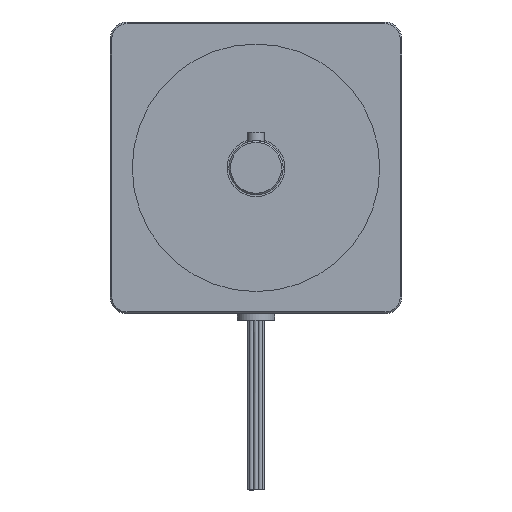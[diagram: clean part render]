
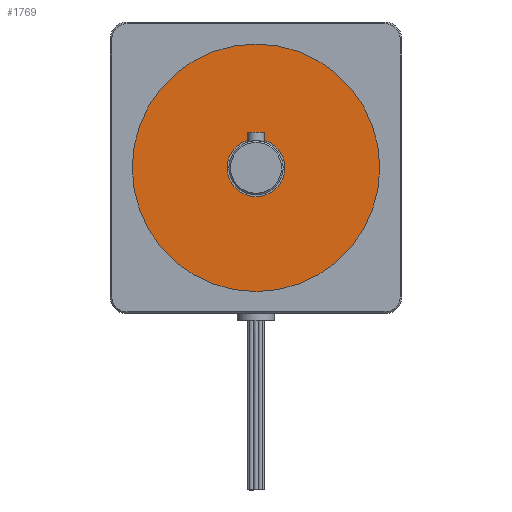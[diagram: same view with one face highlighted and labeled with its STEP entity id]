
A CAD part, front view. The second image highlights one B-rep face of the part: STEP entity #1769.
In plain terms, the highlighted planar face has unit normal (0, -1, 0).
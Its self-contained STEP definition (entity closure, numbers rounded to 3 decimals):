
#325=PLANE('',#5643);
#1769=ADVANCED_FACE('',(#2178,#2179),#325,.T.);
#2023=CIRCLE('',#5638,36.5);
#2024=CIRCLE('',#5640,8.5);
#2178=FACE_BOUND('',#2535,.T.);
#2179=FACE_BOUND('',#2536,.T.);
#2535=EDGE_LOOP('',(#3792));
#2536=EDGE_LOOP('',(#3793));
#3792=ORIENTED_EDGE('',*,*,#5083,.T.);
#3793=ORIENTED_EDGE('',*,*,#5084,.F.);
#4427=VERTEX_POINT('',#9451);
#4428=VERTEX_POINT('',#9454);
#5083=EDGE_CURVE('',#4427,#4427,#2023,.T.);
#5084=EDGE_CURVE('',#4428,#4428,#2024,.T.);
#5638=AXIS2_PLACEMENT_3D('',#9450,#7016,#7017);
#5640=AXIS2_PLACEMENT_3D('',#9453,#7020,#7021);
#5643=AXIS2_PLACEMENT_3D('',#9458,#7026,#7027);
#7016=DIRECTION('',(0.,-1.,0.));
#7017=DIRECTION('',(1.,0.,0.));
#7020=DIRECTION('',(0.,-1.,0.));
#7021=DIRECTION('',(1.,0.,0.));
#7026=DIRECTION('',(0.,-1.,0.));
#7027=DIRECTION('',(0.,0.,-1.));
#9450=CARTESIAN_POINT('',(0.,-88.9,0.));
#9451=CARTESIAN_POINT('',(36.5,-88.9,0.));
#9453=CARTESIAN_POINT('',(0.,-88.9,0.));
#9454=CARTESIAN_POINT('',(8.5,-88.9,0.));
#9458=CARTESIAN_POINT('',(0.,-88.9,0.));
